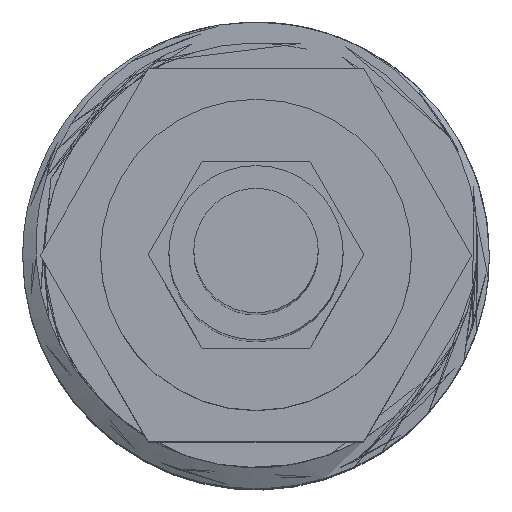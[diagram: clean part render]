
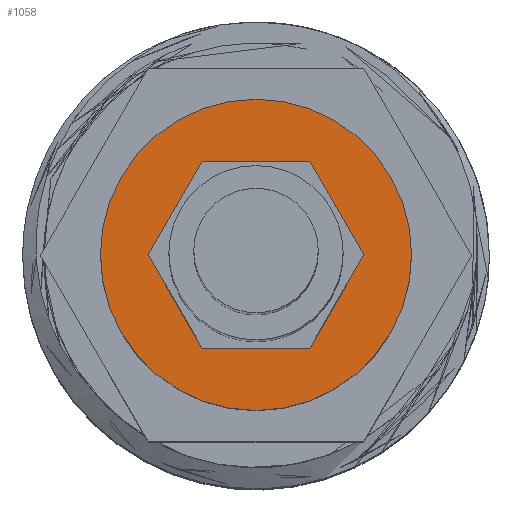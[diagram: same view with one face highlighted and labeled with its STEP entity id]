
A CAD part, top view. The second image highlights one B-rep face of the part: STEP entity #1058.
In plain terms, the highlighted planar face has unit normal (0, 0, 1).
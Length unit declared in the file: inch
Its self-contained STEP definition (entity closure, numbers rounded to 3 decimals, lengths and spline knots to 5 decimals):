
#584 = EDGE_CURVE ( 'NONE', #585, #586, #1681, .T. ) ;
#585 = VERTEX_POINT ( 'NONE', #1676 ) ;
#586 = VERTEX_POINT ( 'NONE', #1675 ) ;
#918 = EDGE_CURVE ( 'NONE', #919, #920, #7072, .T. ) ;
#919 = VERTEX_POINT ( 'NONE', #7068 ) ;
#920 = VERTEX_POINT ( 'NONE', #7067 ) ;
#921 = ORIENTED_EDGE ( 'NONE', *, *, #1022, .F. ) ;
#922 = VERTEX_POINT ( 'NONE', #7066 ) ;
#936 = EDGE_LOOP ( 'NONE', ( #937, #1036 ) ) ;
#937 = ORIENTED_EDGE ( 'NONE', *, *, #1035, .T. ) ;
#991 = VERTEX_POINT ( 'NONE', #7287 ) ;
#992 = ORIENTED_EDGE ( 'NONE', *, *, #993, .F. ) ;
#993 = EDGE_CURVE ( 'NONE', #1018, #991, #7274, .T. ) ;
#998 = VERTEX_POINT ( 'NONE', #7239 ) ;
#999 = ORIENTED_EDGE ( 'NONE', *, *, #1000, .F. ) ;
#1000 = EDGE_CURVE ( 'NONE', #991, #998, #7228, .T. ) ;
#1018 = VERTEX_POINT ( 'NONE', #2021 ) ;
#1019 = ORIENTED_EDGE ( 'NONE', *, *, #1020, .F. ) ;
#1020 = EDGE_CURVE ( 'NONE', #920, #1018, #2017, .T. ) ;
#1022 = EDGE_CURVE ( 'NONE', #922, #919, #2006, .T. ) ;
#1023 = ORIENTED_EDGE ( 'NONE', *, *, #1024, .F. ) ;
#1024 = EDGE_CURVE ( 'NONE', #998, #922, #2002, .T. ) ;
#1035 = EDGE_CURVE ( 'NONE', #586, #585, #2120, .T. ) ;
#1036 = ORIENTED_EDGE ( 'NONE', *, *, #584, .T. ) ;
#1037 = EDGE_LOOP ( 'NONE', ( #1038, #921, #1023, #999, #992, #1019 ) ) ;
#1038 = ORIENTED_EDGE ( 'NONE', *, *, #918, .F. ) ;
#1058 = ADVANCED_FACE ( 'NONE', ( #2057, #2056 ), #2046, .T. ) ;
#1675 = CARTESIAN_POINT ( 'NONE',  ( -0.125, 0., 0.88 ) ) ;
#1676 = CARTESIAN_POINT ( 'NONE',  ( 0.125, 0., 0.88 ) ) ;
#1677 = DIRECTION ( 'NONE',  ( 1., 0., 0. ) ) ;
#1678 = DIRECTION ( 'NONE',  ( 0., 0., 1. ) ) ;
#1679 = CARTESIAN_POINT ( 'NONE',  ( 0., 0., 0.88 ) ) ;
#1680 = AXIS2_PLACEMENT_3D ( 'NONE', #1679, #1678, #1677 ) ;
#1681 = CIRCLE ( 'NONE', #1680, 0.125 ) ;
#2001 = CARTESIAN_POINT ( 'NONE',  ( -0.0433, 0.075, 0.88 ) ) ;
#2002 = LINE ( 'NONE', #2001, #2133 ) ;
#2003 = DIRECTION ( 'NONE',  ( -0.5, -0.866, 0. ) ) ;
#2004 = VECTOR ( 'NONE', #2003, 39.37008 ) ;
#2005 = CARTESIAN_POINT ( 'NONE',  ( -0.0866, 0., 0.88 ) ) ;
#2006 = LINE ( 'NONE', #2005, #2004 ) ;
#2014 = DIRECTION ( 'NONE',  ( 1., 0., 0. ) ) ;
#2015 = VECTOR ( 'NONE', #2014, 39.37008 ) ;
#2016 = CARTESIAN_POINT ( 'NONE',  ( 0.0433, -0.075, 0.88 ) ) ;
#2017 = LINE ( 'NONE', #2016, #2015 ) ;
#2021 = CARTESIAN_POINT ( 'NONE',  ( 0.0433, -0.075, 0.88 ) ) ;
#2042 = DIRECTION ( 'NONE',  ( 1., 0., 0. ) ) ;
#2043 = DIRECTION ( 'NONE',  ( 0., 0., 1. ) ) ;
#2044 = AXIS2_PLACEMENT_3D ( 'NONE', #2045, #2043, #2042 ) ;
#2045 = CARTESIAN_POINT ( 'NONE',  ( 0., 0., 0.88 ) ) ;
#2046 = PLANE ( 'NONE',  #2044 ) ;
#2056 = FACE_BOUND ( 'NONE', #1037, .T. ) ;
#2057 = FACE_OUTER_BOUND ( 'NONE', #936, .T. ) ;
#2116 = DIRECTION ( 'NONE',  ( 1., 0., 0. ) ) ;
#2117 = DIRECTION ( 'NONE',  ( 0., 0., 1. ) ) ;
#2118 = CARTESIAN_POINT ( 'NONE',  ( 0., 0., 0.88 ) ) ;
#2119 = AXIS2_PLACEMENT_3D ( 'NONE', #2118, #2117, #2116 ) ;
#2120 = CIRCLE ( 'NONE', #2119, 0.125 ) ;
#2132 = DIRECTION ( 'NONE',  ( -1., 0., 0. ) ) ;
#2133 = VECTOR ( 'NONE', #2132, 39.37008 ) ;
#7066 = CARTESIAN_POINT ( 'NONE',  ( -0.0433, 0.075, 0.88 ) ) ;
#7067 = CARTESIAN_POINT ( 'NONE',  ( -0.0433, -0.075, 0.88 ) ) ;
#7068 = CARTESIAN_POINT ( 'NONE',  ( -0.0866, 0., 0.88 ) ) ;
#7069 = DIRECTION ( 'NONE',  ( 0.5, -0.866, 0. ) ) ;
#7070 = VECTOR ( 'NONE', #7069, 39.37008 ) ;
#7071 = CARTESIAN_POINT ( 'NONE',  ( -0.0433, -0.075, 0.88 ) ) ;
#7072 = LINE ( 'NONE', #7071, #7070 ) ;
#7219 = DIRECTION ( 'NONE',  ( -0.5, 0.866, 0. ) ) ;
#7220 = VECTOR ( 'NONE', #7219, 39.37008 ) ;
#7221 = CARTESIAN_POINT ( 'NONE',  ( 0.0433, 0.075, 0.88 ) ) ;
#7228 = LINE ( 'NONE', #7221, #7220 ) ;
#7239 = CARTESIAN_POINT ( 'NONE',  ( 0.0433, 0.075, 0.88 ) ) ;
#7271 = DIRECTION ( 'NONE',  ( 0.5, 0.866, 0. ) ) ;
#7272 = VECTOR ( 'NONE', #7271, 39.37008 ) ;
#7273 = CARTESIAN_POINT ( 'NONE',  ( 0.0866, 0., 0.88 ) ) ;
#7274 = LINE ( 'NONE', #7273, #7272 ) ;
#7287 = CARTESIAN_POINT ( 'NONE',  ( 0.0866, 0., 0.88 ) ) ;
